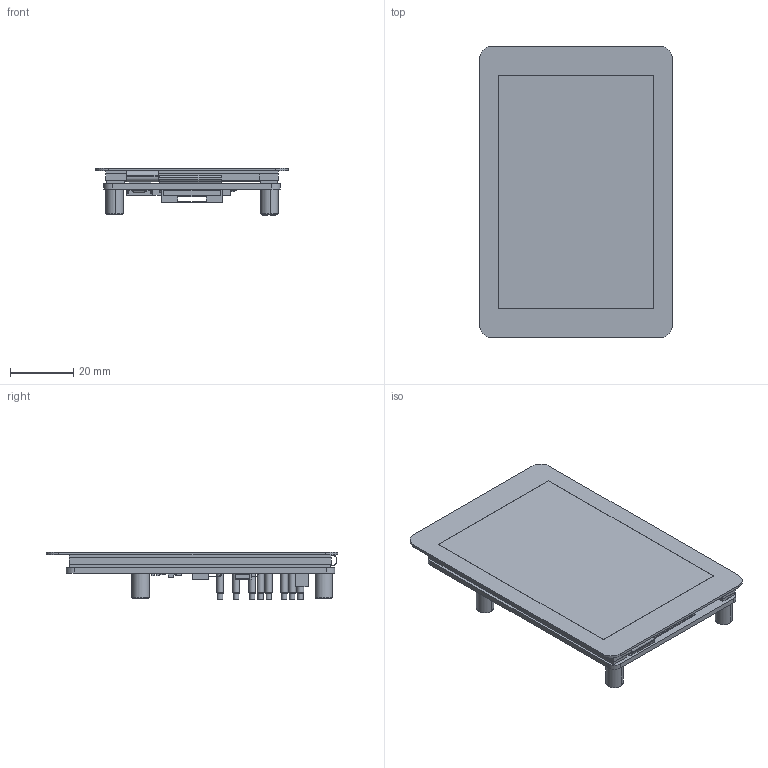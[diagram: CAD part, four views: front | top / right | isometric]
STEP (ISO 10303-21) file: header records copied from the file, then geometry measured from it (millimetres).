
FILE_DESCRIPTION((''),'2;1');
FILE_NAME('3_5INCH-RPI-LCD_F_ASM','2025-05-26T10:01:34',('xiaojisheng'),(''),'CREO PARAMETRIC BY PTC INC, 2021063','CREO PARAMETRIC BY PTC INC, 2021063','');
FILE_SCHEMA(('CONFIG_CONTROL_DESIGN','SHAPE_APPEARANCE_LAYERS_GROUPS'));
Length unit declared in the file: millimetre
Products named in the file (43): 3_5INCH-320X480-TOUCH; 0352A002-S1I0100-LCD320X480; 3_5INCH-320X480-TP_LCD_ASM; BOARD; EXTRUDED-3064; 1121792856_ASM; R21_ASM; EXTRUDED-3459; 1121792992_ASM; C207_ASM; R208_ASM; CAPC1608_0603_; C50_ASM; EXTRUDED-8866; 1121793400_ASM; Q1_ASM; RESC1608_0603_; R13_ASM; R14_ASM; R16_ASM; EXTRUDED-13857; 1121793128_ASM; R22_ASM; R23_ASM; R24_ASM; R26_ASM; C10_ASM; C11_ASM; C12_ASM; R11_ASM; EXTRUDED-14448; 1121793264_ASM; U3_ASM; C20_ASM; PCB_ASM; SMTSO-M2_5-8ET; FPC0_5-2H-S-W-6P; LCD-CONNECTOR; GH1_25MM-13PIN; PIN-01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
Assembly tree (66 placements, depth 6):
  3_5INCH-RPI-LCD_F_ASM
    3_5INCH-320X480-TP_LCD_ASM
      3_5INCH-320X480-TOUCH
      0352A002-S1I0100-LCD320X480
    3_5INCH_RPI_LCD_F_PCBA_ASM
      PCB_ASM
        BOARD
        R21_ASM
          1121792856_ASM
            EXTRUDED-3064
        C207_ASM
          1121792992_ASM
            EXTRUDED-3459
        R208_ASM
          1121792856_ASM
            EXTRUDED-3064
        C50_ASM
          CAPC1608_0603_
        Q1_ASM
          1121793400_ASM
            EXTRUDED-8866
        R13_ASM
          RESC1608_0603_
        R14_ASM
          RESC1608_0603_
        R16_ASM
          RESC1608_0603_
        R22_ASM
          1121793128_ASM
            EXTRUDED-13857
        R23_ASM
          1121793128_ASM
            EXTRUDED-13857
        R24_ASM
          1121793128_ASM
            EXTRUDED-13857
        R26_ASM
          1121792856_ASM
            EXTRUDED-3064
        C10_ASM
          CAPC1608_0603_
        C11_ASM
          CAPC1608_0603_
        C12_ASM
          CAPC1608_0603_
        R11_ASM
          RESC1608_0603_
        U3_ASM
          1121793264_ASM
            EXTRUDED-14448
        C20_ASM
          CAPC1608_0603_
      SMTSO-M2_5-8ET  x4
      FPC0_5-2H-S-W-6P
      LCD-CONNECTOR
      GH1_25MM-13PIN
      PIN-01  x11
    EVA
Bounding box: 61 x 92.44 x 15.1 mm (x, y, z)
Volume: 27162.9 mm3; surface area: 39779.1 mm2
Topology: 43 solids, 44 shells, 1719 faces, 4406 edges, 2743 vertices
Faces by surface type: plane 1015, cylinder 470, sphere 72, extrusion 68, cone 40, bspline 32, torus 22
Entity records: 48871 total; most frequent: CARTESIAN_POINT 10556, ORIENTED_EDGE 6156, DIRECTION 5738, EDGE_CURVE 3078, VECTOR 2610, LINE 2542, VERTEX_POINT 2001, PRESENTATION_STYLE_ASSIGNMENT 1694
